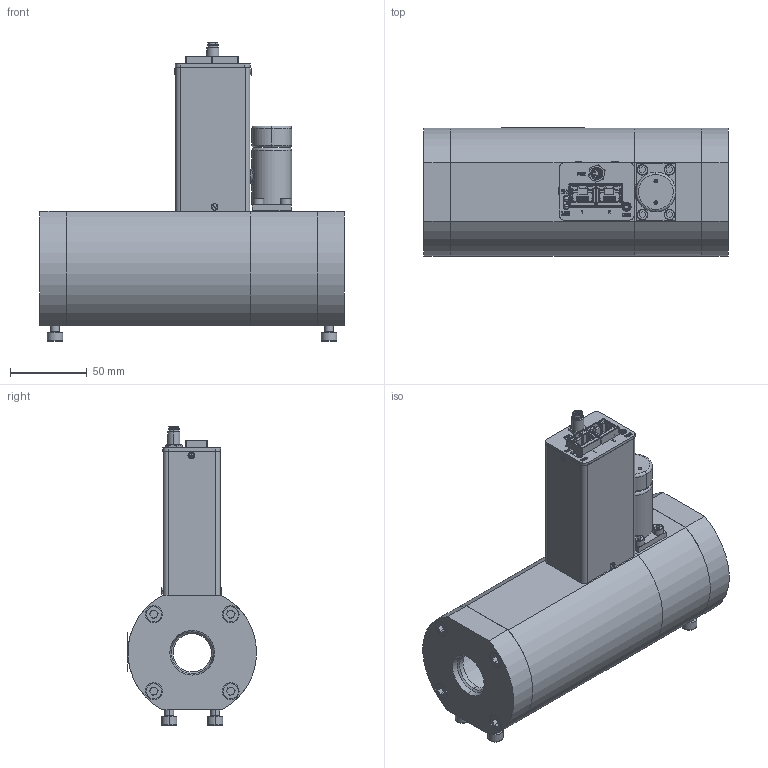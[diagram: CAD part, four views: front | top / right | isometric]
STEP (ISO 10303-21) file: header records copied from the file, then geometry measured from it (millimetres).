
FILE_DESCRIPTION (( 'STEP AP214' ), '1' );
FILE_NAME ('SLA5853-8-2B-3-A-REVB.STEP', '2021-08-20T12:41:46', ( '' ), ( '' ), 'SwSTEP 2.0', 'SolidWorks 2020', '' );
FILE_SCHEMA (( 'AUTOMOTIVE_DESIGN' ));
Length unit declared in the file: inch
Products named in the file (1): SLA5853-8-2B-3-A-REVB
Bounding box: 198.8 x 84.02 x 194.93 mm (x, y, z)
Volume: 225330.2 mm3; surface area: 189532.6 mm2
Topology: 122 solids, 122 shells, 3600 faces, 9426 edges, 6135 vertices
Faces by surface type: plane 2539, cylinder 738, cone 163, bspline 85, torus 60, sphere 15
Entity records: 161689 total; most frequent: CARTESIAN_POINT 25177, ORIENTED_EDGE 18790, DIRECTION 17350, EDGE_CURVE 9395, LINE 6840, VECTOR 6840, VERTEX_POINT 6126, AXIS2_PLACEMENT_3D 5255
